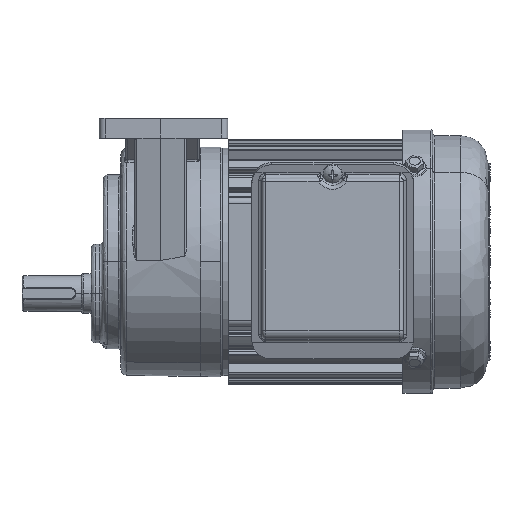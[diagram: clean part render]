
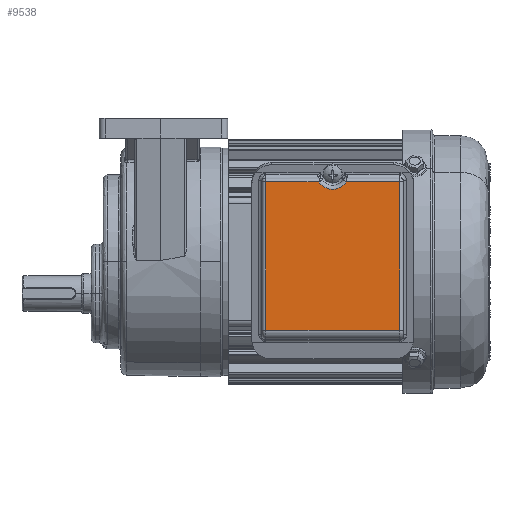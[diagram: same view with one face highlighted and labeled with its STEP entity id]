
A CAD part, left-side view. The second image highlights one B-rep face of the part: STEP entity #9538.
In plain terms, the highlighted planar face has unit normal (-1, 0, 0.001) as drawn and (1, 0, 0) by its records, which use the part's own axes.
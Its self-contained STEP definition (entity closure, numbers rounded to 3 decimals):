
#9461 = EDGE_CURVE ( 'NONE', #9463, #9465, #79592, .T. ) ;
#9463 = VERTEX_POINT ( 'NONE', #79616 ) ;
#9465 = VERTEX_POINT ( 'NONE', #79615 ) ;
#9496 = ORIENTED_EDGE ( 'NONE', *, *, #9498, .F. ) ;
#9498 = EDGE_CURVE ( 'NONE', #9550, #9548, #79718, .T. ) ;
#9500 = ORIENTED_EDGE ( 'NONE', *, *, #9501, .T. ) ;
#9501 = EDGE_CURVE ( 'NONE', #9550, #9463, #79777, .T. ) ;
#9503 = ORIENTED_EDGE ( 'NONE', *, *, #9461, .T. ) ;
#9505 = ORIENTED_EDGE ( 'NONE', *, *, #9507, .T. ) ;
#9507 = EDGE_CURVE ( 'NONE', #9465, #9532, #79768, .T. ) ;
#9525 = VERTEX_POINT ( 'NONE', #79788 ) ;
#9527 = EDGE_CURVE ( 'NONE', #9532, #9525, #79787, .T. ) ;
#9532 = VERTEX_POINT ( 'NONE', #79783 ) ;
#9538 = ADVANCED_FACE ( 'NONE', ( #79837 ), #79835, .F. ) ;
#9540 = EDGE_LOOP ( 'NONE', ( #9542, #9544, #9496, #9500, #9503, #9505 ) ) ;
#9542 = ORIENTED_EDGE ( 'NONE', *, *, #9527, .T. ) ;
#9544 = ORIENTED_EDGE ( 'NONE', *, *, #9546, .T. ) ;
#9546 = EDGE_CURVE ( 'NONE', #9525, #9548, #79825, .T. ) ;
#9548 = VERTEX_POINT ( 'NONE', #79821 ) ;
#9550 = VERTEX_POINT ( 'NONE', #79816 ) ;
#79585 = DIRECTION ( 'NONE',  ( 0., 0., -1. ) ) ;
#79586 = VECTOR ( 'NONE', #79585, 1000. ) ;
#79587 = CARTESIAN_POINT ( 'NONE',  ( 24.985, -39.214, 81.6 ) ) ;
#79592 = LINE ( 'NONE', #79587, #79586 ) ;
#79615 = CARTESIAN_POINT ( 'NONE',  ( 24.985, -39.214, 47.658 ) ) ;
#79616 = CARTESIAN_POINT ( 'NONE',  ( 24.985, -39.214, 74.6 ) ) ;
#79718 = LINE ( 'NONE', #79781, #79780 ) ;
#79764 = DIRECTION ( 'NONE',  ( 0., -1., 0. ) ) ;
#79765 = DIRECTION ( 'NONE',  ( -1., 0., 0. ) ) ;
#79766 = CARTESIAN_POINT ( 'NONE',  ( 24.985, -43.709, 40.8 ) ) ;
#79767 = AXIS2_PLACEMENT_3D ( 'NONE', #79766, #79765, #79764 ) ;
#79768 = CIRCLE ( 'NONE', #79767, 8.2 ) ;
#79769 = DIRECTION ( 'NONE',  ( 0., -1., 0. ) ) ;
#79770 = VECTOR ( 'NONE', #79769, 1000. ) ;
#79771 = CARTESIAN_POINT ( 'NONE',  ( 24.985, -39.214, 74.6 ) ) ;
#79777 = LINE ( 'NONE', #79771, #79770 ) ;
#79779 = DIRECTION ( 'NONE',  ( 0., 0., -1. ) ) ;
#79780 = VECTOR ( 'NONE', #79779, 1000. ) ;
#79781 = CARTESIAN_POINT ( 'NONE',  ( 24.985, 35.586, 81.6 ) ) ;
#79783 = CARTESIAN_POINT ( 'NONE',  ( 24.985, -39.214, 33.942 ) ) ;
#79784 = DIRECTION ( 'NONE',  ( 0., 0., -1. ) ) ;
#79785 = VECTOR ( 'NONE', #79784, 1000. ) ;
#79786 = CARTESIAN_POINT ( 'NONE',  ( 24.985, -39.214, 81.6 ) ) ;
#79787 = LINE ( 'NONE', #79786, #79785 ) ;
#79788 = CARTESIAN_POINT ( 'NONE',  ( 24.985, -39.214, 7. ) ) ;
#79816 = CARTESIAN_POINT ( 'NONE',  ( 24.985, 35.586, 74.6 ) ) ;
#79821 = CARTESIAN_POINT ( 'NONE',  ( 24.985, 35.586, 7. ) ) ;
#79822 = DIRECTION ( 'NONE',  ( 0., 1., 0. ) ) ;
#79823 = VECTOR ( 'NONE', #79822, 1000. ) ;
#79824 = CARTESIAN_POINT ( 'NONE',  ( 24.985, 35.586, 7. ) ) ;
#79825 = LINE ( 'NONE', #79824, #79823 ) ;
#79831 = DIRECTION ( 'NONE',  ( 0., -1., 0. ) ) ;
#79832 = DIRECTION ( 'NONE',  ( -1., 0., 0. ) ) ;
#79833 = CARTESIAN_POINT ( 'NONE',  ( 24.985, 35.586, 81.6 ) ) ;
#79834 = AXIS2_PLACEMENT_3D ( 'NONE', #79833, #79832, #79831 ) ;
#79835 = PLANE ( 'NONE',  #79834 ) ;
#79837 = FACE_OUTER_BOUND ( 'NONE', #9540, .T. ) ;
